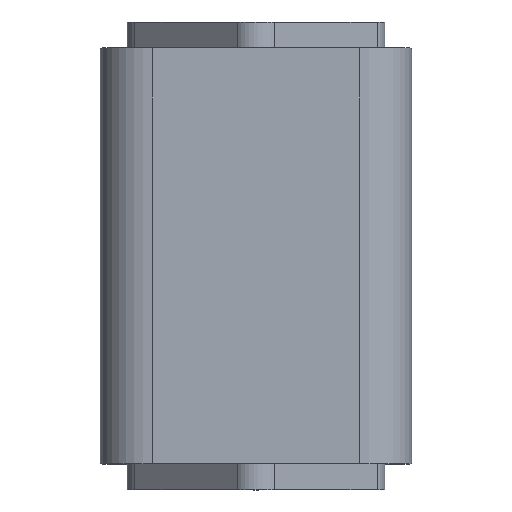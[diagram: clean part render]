
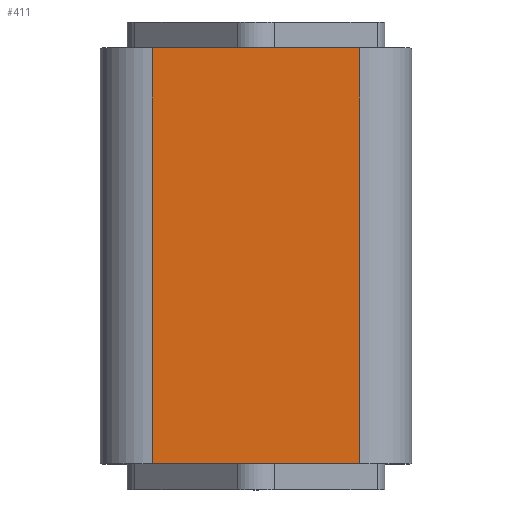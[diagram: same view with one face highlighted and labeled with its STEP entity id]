
A CAD part, top view. The second image highlights one B-rep face of the part: STEP entity #411.
In plain terms, the highlighted planar face has unit normal (0, 0, 1).
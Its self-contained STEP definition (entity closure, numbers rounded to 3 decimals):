
#346=CARTESIAN_POINT('',(20.,80.0,30.));
#347=VERTEX_POINT('',#346);
#355=CARTESIAN_POINT('',(20.,0.0,30.));
#356=VERTEX_POINT('',#355);
#357=CARTESIAN_POINT('',(20.,0.0,30.));
#358=DIRECTION('',(0.0,1.0,0.0));
#359=VECTOR('',#358,80.0);
#360=LINE('',#357,#359);
#361=EDGE_CURVE('',#356,#347,#360,.T.);
#381=CARTESIAN_POINT('',(20.,0.0,30.));
#382=DIRECTION('',(0.0,0.0,1.0));
#383=DIRECTION('',(1.0,0.0,0.0));
#384=AXIS2_PLACEMENT_3D('',#381,#382,#383);
#385=PLANE('',#384);
#386=CARTESIAN_POINT('',(-20.,80.0,30.));
#387=VERTEX_POINT('',#386);
#388=CARTESIAN_POINT('',(20.,80.0,30.));
#389=DIRECTION('',(-1.0,0.0,0.0));
#390=VECTOR('',#389,40.);
#391=LINE('',#388,#390);
#392=EDGE_CURVE('',#347,#387,#391,.T.);
#393=ORIENTED_EDGE('',*,*,#392,.T.);
#394=CARTESIAN_POINT('',(-20.,0.0,30.));
#395=VERTEX_POINT('',#394);
#396=CARTESIAN_POINT('',(-20.,0.0,30.));
#397=DIRECTION('',(0.0,1.0,0.0));
#398=VECTOR('',#397,80.0);
#399=LINE('',#396,#398);
#400=EDGE_CURVE('',#395,#387,#399,.T.);
#401=ORIENTED_EDGE('',*,*,#400,.F.);
#402=CARTESIAN_POINT('',(20.,0.0,30.));
#403=DIRECTION('',(-1.0,0.0,0.0));
#404=VECTOR('',#403,40.);
#405=LINE('',#402,#404);
#406=EDGE_CURVE('',#356,#395,#405,.T.);
#407=ORIENTED_EDGE('',*,*,#406,.F.);
#408=ORIENTED_EDGE('',*,*,#361,.T.);
#409=EDGE_LOOP('',(#393,#401,#407,#408));
#410=FACE_OUTER_BOUND('',#409,.T.);
#411=ADVANCED_FACE('',(#410),#385,.T.);
